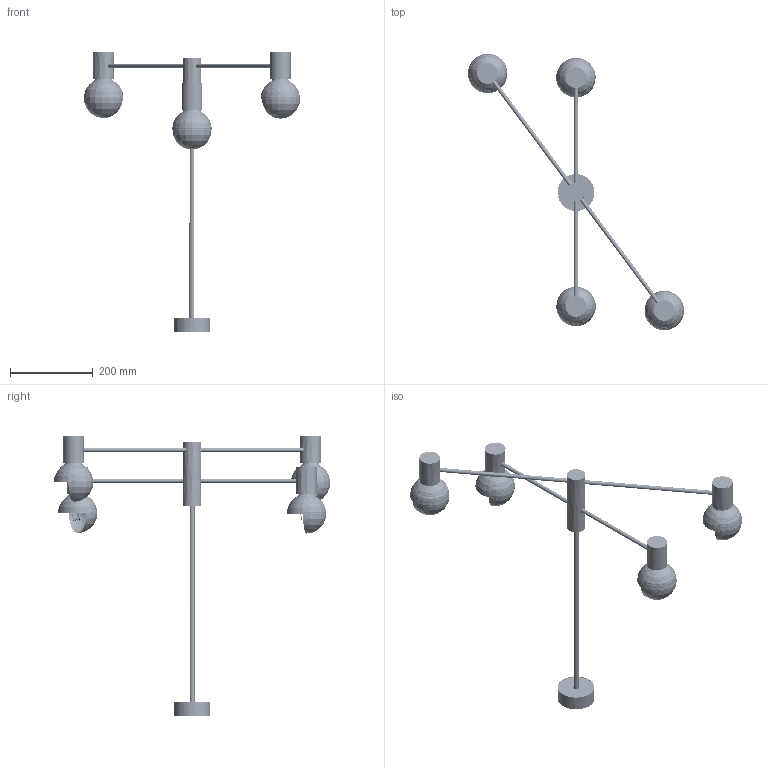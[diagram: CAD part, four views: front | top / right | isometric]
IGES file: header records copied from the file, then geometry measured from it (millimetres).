
Start section: SolidWorks IGES file using analytic representation for surfaces
Global section: file name: Z:\Modele 3D_WWW\_KOLEKCJE_WWW\RADIUS\RADIUS-IV-ZWIS-7931\RADIUS-IV-ZWIS-7931.IGS; native system: SolidWorks 2021; preprocessor: SolidWorks 2021; author: gabriela.tworek; date: 210901.115637; units: millimetre
Bounding box: 523.06 x 668.76 x 677.79 mm (x, y, z)
Surface area: 523691.7 mm2 (no closed solid volume)
Topology: 0 solids, 0 shells, 1192 faces, 18109 edges, 18085 vertices
Faces by surface type: revolution 674, bspline 518
